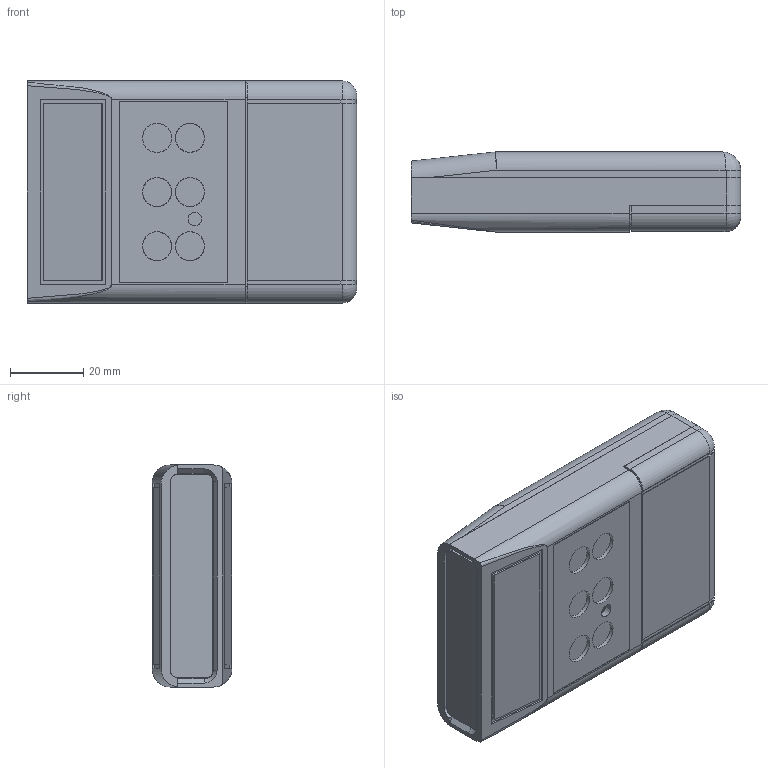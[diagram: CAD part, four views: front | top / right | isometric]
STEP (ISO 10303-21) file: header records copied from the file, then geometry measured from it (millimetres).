
FILE_DESCRIPTION (( 'STEP AP214' ), '1' );
FILE_NAME ('Conjunt PP75.STEP', '2017-10-05T07:36:23', ( 'aaa' ), ( '' ), 'SwSTEP 2.0', 'SolidWorks 2013', '' );
FILE_SCHEMA (( 'AUTOMOTIVE_DESIGN' ));
Length unit declared in the file: millimetre
Products named in the file (20): Butó vermell PP75; Pulsador negre PP75; Butó negre PP75; Tapa Trasera PP75; Cargol 2,1x6,5 PP75; Cargol 2,2x13 PP75; Tapa delantera PP75; Tapa PP75; Cuerpo PP75; Butó blau PP75; Conjunt PP75; Pulsador gris PP75; Pulsador verd PP75; Butó verd PP75; Butó gris PP75; Pulsador groc PP75; Pulsador blau PP75; Butó groc PP75; Tapeta Botones PP75; Pulsador vermell PP75
Assembly tree (22 placements, depth 2):
  Conjunt PP75
    Cuerpo PP75
    Tapa PP75
    Tapa delantera PP75
    Cargol 2,2x13 PP75  x2
    Cargol 2,1x6,5 PP75  x3
    Tapa Trasera PP75
    Butó negre PP75
    Pulsador negre PP75
    Butó vermell PP75
    Pulsador vermell PP75
    Tapeta Botones PP75
    Butó groc PP75
    Pulsador blau PP75
    Pulsador groc PP75
    Butó gris PP75
    Butó verd PP75
    Pulsador verd PP75
    Pulsador gris PP75
    Butó blau PP75
Bounding box: 90 x 21.8 x 60.7 mm (x, y, z)
Volume: 38350.4 mm3; surface area: 42850.2 mm2
Topology: 22 solids, 22 shells, 963 faces, 2232 edges, 1363 vertices
Faces by surface type: plane 434, cone 316, cylinder 197, bspline 8, torus 8
Entity records: 22241 total; most frequent: CARTESIAN_POINT 4071, DIRECTION 3708, ORIENTED_EDGE 3484, EDGE_CURVE 1742, AXIS2_PLACEMENT_3D 1263, VECTOR 1182, LINE 1182, VERTEX_POINT 1104
